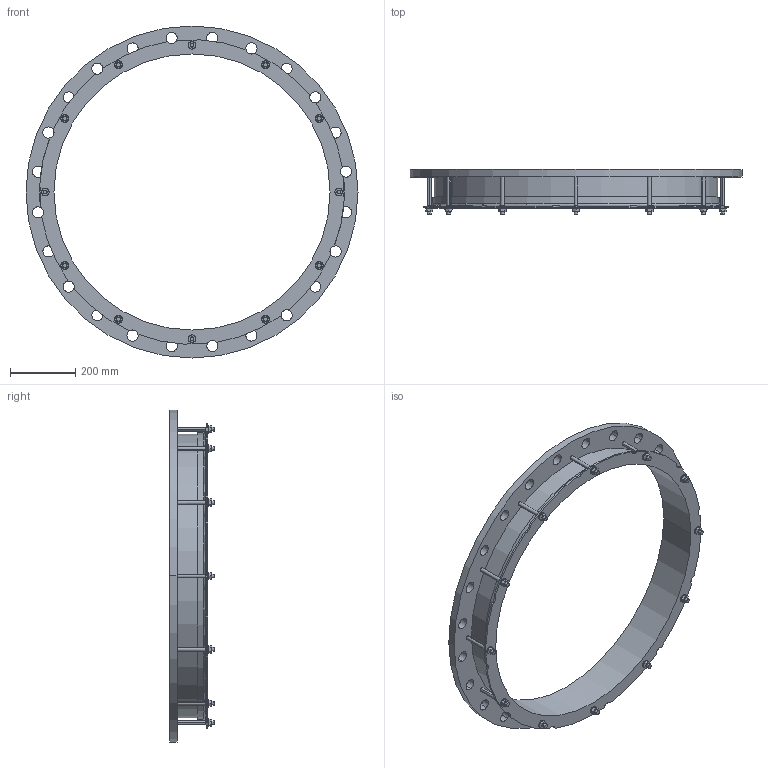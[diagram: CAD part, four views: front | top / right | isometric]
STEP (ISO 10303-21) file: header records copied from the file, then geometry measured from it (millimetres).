
FILE_DESCRIPTION((''),'2;1');
FILE_NAME('842X800PN10_12NOT','2019-01-16T',('mfairey'),('Glynwed Pipe Systems'),'CREO PARAMETRIC BY PTC INC, 2016130','CREO PARAMETRIC BY PTC INC, 2016130','');
FILE_SCHEMA(('CONFIG_CONTROL_DESIGN'));
Length unit declared in the file: millimetre
Products named in the file (1): 842X800PN10_12NOT
Bounding box: 1015 x 137.45 x 1015 mm (x, y, z)
Volume: 9238132.5 mm3; surface area: 1371682.5 mm2
Topology: 1 solids, 1 shells, 268 faces, 718 edges, 478 vertices
Faces by surface type: cylinder 150, plane 112, cone 4, torus 2
Entity records: 9624 total; most frequent: CARTESIAN_POINT 2560, DIRECTION 1474, ORIENTED_EDGE 1436, EDGE_CURVE 718, AXIS2_PLACEMENT_3D 552, VERTEX_POINT 478, VECTOR 370, LINE 370
